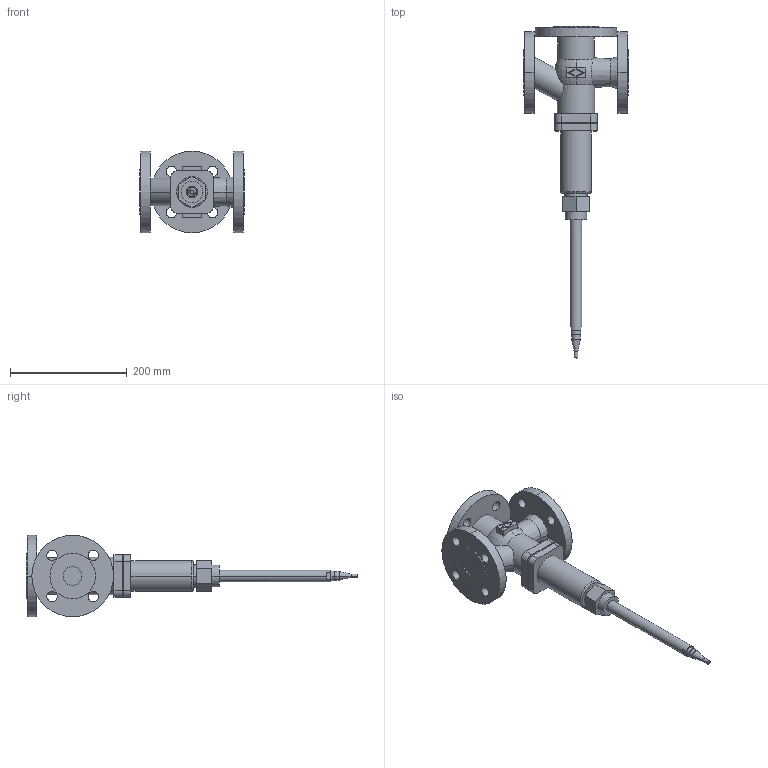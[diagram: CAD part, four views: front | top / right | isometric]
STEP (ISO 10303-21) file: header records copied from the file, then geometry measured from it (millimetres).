
FILE_DESCRIPTION( ( '' ), '1' );
FILE_NAME( 'F:/DE-SHS/TB/OR/04-Sonstiges/daten/files_3d/773-Mischventil/773-Mischventil_PN40/c000006180.stp', '2016-04-11T09:10:39', ( '' ), ( '' ), ' ', ' ', ' ' );
FILE_SCHEMA( ( 'CONFIG_CONTROL_DESIGN' ) );
Length unit declared in the file: millimetre
Products named in the file (1): 1
Bounding box: 180 x 569.44 x 140 mm (x, y, z)
Volume: 1856975.6 mm3; surface area: 211427.2 mm2
Topology: 1 solids, 1 shells, 141 faces, 351 edges, 232 vertices
Faces by surface type: cylinder 70, plane 60, cone 6, torus 5
Entity records: 4714 total; most frequent: CARTESIAN_POINT 1107, DIRECTION 792, ORIENTED_EDGE 702, EDGE_CURVE 351, AXIS2_PLACEMENT_3D 313, VERTEX_POINT 232, EDGE_LOOP 185, CIRCLE 169
